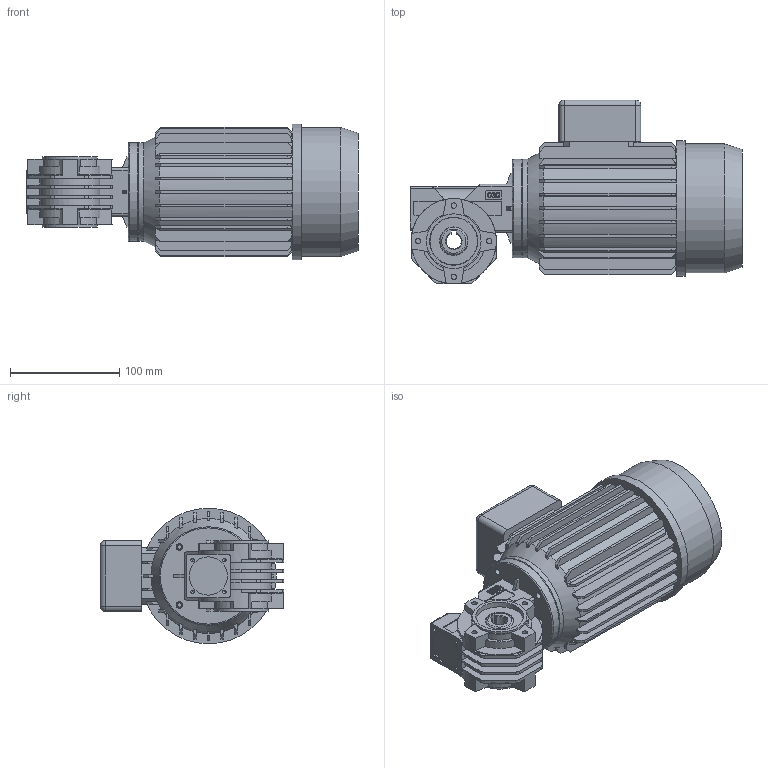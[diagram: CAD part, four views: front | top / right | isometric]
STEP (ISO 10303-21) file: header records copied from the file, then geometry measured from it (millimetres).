
FILE_DESCRIPTION( ( 'Unknown' ), '1' );
FILE_NAME( 'E:/services/configuratordownloads/customers/HYDROMEC/VSF/download/7BB4FBB0D120B75BCC8BC2846E3D2F5D/STEP/7BB4FBB0D120B75BCC8BC2846E3D2F5D.3d.stp', 'Unknown', ( 'Unknown' ), ( 'Unknown' ), 'PSStep 10.1', 'Unknown', ' ' );
FILE_SCHEMA( ( 'AUTOMOTIVE_DESIGN { 1 0 10303 214 1 1 1 1 }' ) );
Length unit declared in the file: millimetre
Products named in the file (1): 0308800
Bounding box: 303.5 x 168 x 124 mm (x, y, z)
Volume: 2447619 mm3; surface area: 213864.6 mm2
Topology: 1 solids, 10 shells, 572 faces, 1513 edges, 996 vertices
Faces by surface type: plane 413, cylinder 128, cone 15, bspline 8, sphere 4, torus 4
Full cylindrical faces by diameter (mm): 3.242 x4, 4.134 x4, 4.2 x4, 4.917 x8, 6 x4, 20 x1, 26 x2, 30 x1, 35 x1, 44 x1, 50 x2, 58 x1, 60 x1, 90 x2, 105 x1, 118 x1, 124 x1
Entity records: 24348 total; most frequent: CARTESIAN_POINT 5714, DIRECTION 2896, ORIENTED_EDGE 2860, EDGE_CURVE 1430, LINE 978, VECTOR 978, VERTEX_POINT 977, AXIS2_PLACEMENT_3D 959
